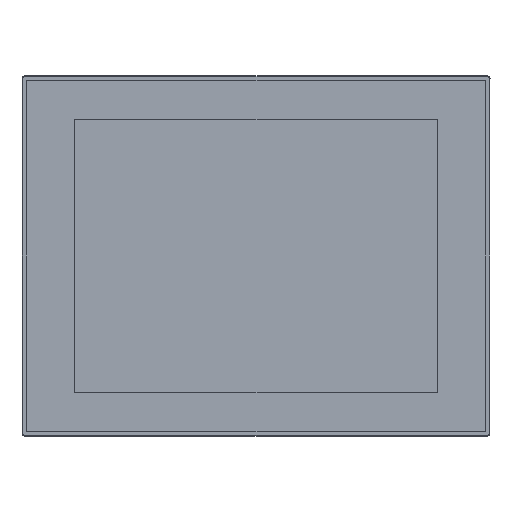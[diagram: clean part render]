
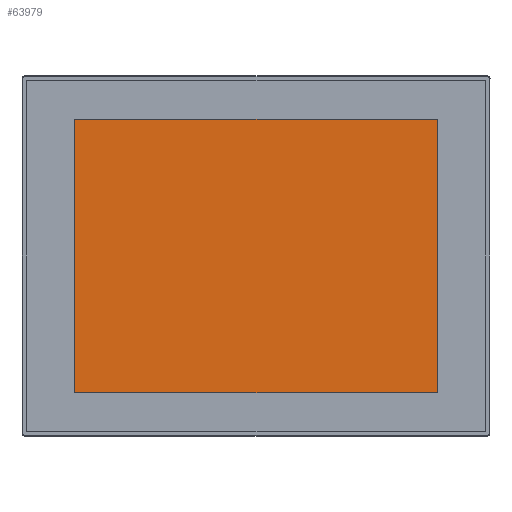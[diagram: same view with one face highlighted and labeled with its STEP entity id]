
A CAD part, front view. The second image highlights one B-rep face of the part: STEP entity #63979.
In plain terms, the highlighted planar face has unit normal (0, -1, 0).
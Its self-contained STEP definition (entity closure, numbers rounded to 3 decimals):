
#3996 = AXIS2_PLACEMENT_3D ( 'NONE', #131248, #15135, #56675 ) ;
#4027 = EDGE_CURVE ( 'NONE', #116882, #4454, #136394, .T. ) ;
#4454 = VERTEX_POINT ( 'NONE', #63029 ) ;
#7162 = DIRECTION ( 'NONE',  ( 0., 0., 1. ) ) ;
#7443 = EDGE_LOOP ( 'NONE', ( #110005, #54713, #35370, #74543 ) ) ;
#11657 = EDGE_CURVE ( 'NONE', #4454, #88518, #76945, .T. ) ;
#12362 = CARTESIAN_POINT ( 'NONE',  ( -124.4, 0.1, 93.7 ) ) ;
#15135 = DIRECTION ( 'NONE',  ( 0., -1., 0. ) ) ;
#16802 = LINE ( 'NONE', #31657, #94275 ) ;
#22433 = VECTOR ( 'NONE', #7162, 1000. ) ;
#28706 = DIRECTION ( 'NONE',  ( 1., 0., 0. ) ) ;
#31657 = CARTESIAN_POINT ( 'NONE',  ( 124.4, 0.1, 93.7 ) ) ;
#35370 = ORIENTED_EDGE ( 'NONE', *, *, #11657, .T. ) ;
#39754 = CARTESIAN_POINT ( 'NONE',  ( -124.4, 0.1, -93.7 ) ) ;
#52872 = DIRECTION ( 'NONE',  ( -1., 0., 0. ) ) ;
#54713 = ORIENTED_EDGE ( 'NONE', *, *, #4027, .T. ) ;
#56675 = DIRECTION ( 'NONE',  ( 0., 0., -1. ) ) ;
#61923 = CARTESIAN_POINT ( 'NONE',  ( -124.4, 0.1, -93.7 ) ) ;
#63029 = CARTESIAN_POINT ( 'NONE',  ( 124.4, 0.1, -93.7 ) ) ;
#63979 = ADVANCED_FACE ( 'NONE', ( #86770 ), #96273, .T. ) ;
#70069 = VERTEX_POINT ( 'NONE', #12362 ) ;
#74543 = ORIENTED_EDGE ( 'NONE', *, *, #101537, .T. ) ;
#76945 = LINE ( 'NONE', #122386, #22433 ) ;
#86770 = FACE_OUTER_BOUND ( 'NONE', #7443, .T. ) ;
#88518 = VERTEX_POINT ( 'NONE', #127491 ) ;
#93185 = CARTESIAN_POINT ( 'NONE',  ( 124.4, 0.1, -93.7 ) ) ;
#94275 = VECTOR ( 'NONE', #52872, 1000. ) ;
#96273 = PLANE ( 'NONE',  #3996 ) ;
#96856 = VECTOR ( 'NONE', #28706, 1000. ) ;
#101537 = EDGE_CURVE ( 'NONE', #88518, #70069, #16802, .T. ) ;
#106824 = EDGE_CURVE ( 'NONE', #70069, #116882, #112046, .T. ) ;
#110005 = ORIENTED_EDGE ( 'NONE', *, *, #106824, .T. ) ;
#112046 = LINE ( 'NONE', #39754, #133429 ) ;
#116882 = VERTEX_POINT ( 'NONE', #61923 ) ;
#122386 = CARTESIAN_POINT ( 'NONE',  ( 124.4, 0.1, -93.7 ) ) ;
#124527 = DIRECTION ( 'NONE',  ( 0., 0., -1. ) ) ;
#127491 = CARTESIAN_POINT ( 'NONE',  ( 124.4, 0.1, 93.7 ) ) ;
#131248 = CARTESIAN_POINT ( 'NONE',  ( 0., 0.1, 0. ) ) ;
#133429 = VECTOR ( 'NONE', #124527, 1000. ) ;
#136394 = LINE ( 'NONE', #93185, #96856 ) ;
